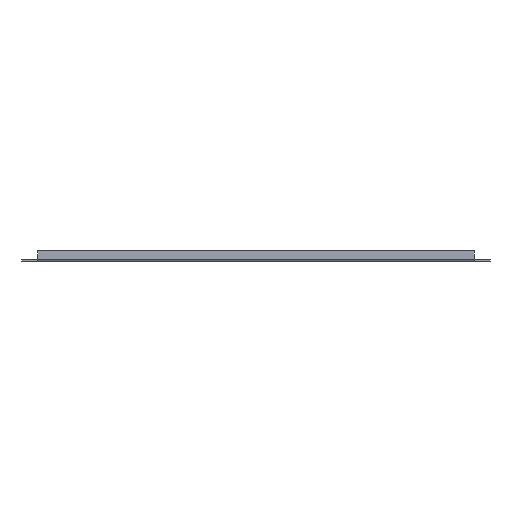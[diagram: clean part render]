
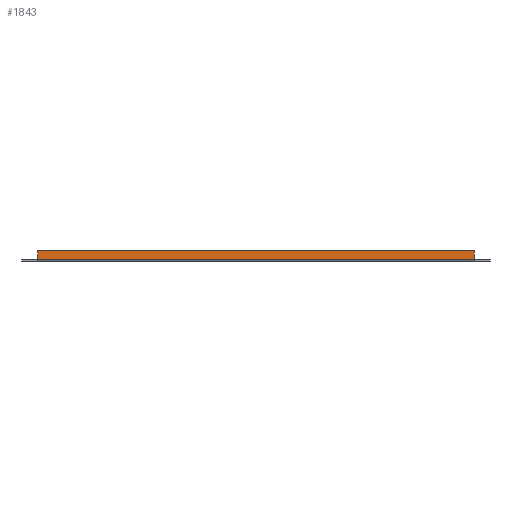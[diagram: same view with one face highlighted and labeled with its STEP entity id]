
A CAD part, left-side view. The second image highlights one B-rep face of the part: STEP entity #1843.
In plain terms, the highlighted planar face has unit normal (-1, 0, 0).
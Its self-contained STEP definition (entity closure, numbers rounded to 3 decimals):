
#1688 = VERTEX_POINT('',#1689);
#1689 = CARTESIAN_POINT('',(-825.,410.,3.1));
#1728 = VERTEX_POINT('',#1729);
#1729 = CARTESIAN_POINT('',(-825.,-410.,3.1));
#1753 = EDGE_CURVE('',#1728,#1688,#1754,.T.);
#1754 = LINE('',#1755,#1756);
#1755 = CARTESIAN_POINT('',(-825.,-410.,3.1));
#1756 = VECTOR('',#1757,1.);
#1757 = DIRECTION('',(0.,1.,0.));
#1795 = VERTEX_POINT('',#1796);
#1796 = CARTESIAN_POINT('',(-825.,-410.,20.));
#1802 = EDGE_CURVE('',#1728,#1795,#1803,.T.);
#1803 = LINE('',#1804,#1805);
#1804 = CARTESIAN_POINT('',(-825.,-410.,20.));
#1805 = VECTOR('',#1806,1.);
#1806 = DIRECTION('',(-0.,0.,1.));
#1817 = EDGE_CURVE('',#1818,#1688,#1820,.T.);
#1818 = VERTEX_POINT('',#1819);
#1819 = CARTESIAN_POINT('',(-825.,410.,20.));
#1820 = LINE('',#1821,#1822);
#1821 = CARTESIAN_POINT('',(-825.,410.,2.5));
#1822 = VECTOR('',#1823,1.);
#1823 = DIRECTION('',(0.,-0.,-1.));
#1843 = ADVANCED_FACE('',(#1844),#1855,.F.);
#1844 = FACE_BOUND('',#1845,.T.);
#1845 = EDGE_LOOP('',(#1846,#1847,#1848,#1854));
#1846 = ORIENTED_EDGE('',*,*,#1753,.F.);
#1847 = ORIENTED_EDGE('',*,*,#1802,.T.);
#1848 = ORIENTED_EDGE('',*,*,#1849,.T.);
#1849 = EDGE_CURVE('',#1795,#1818,#1850,.T.);
#1850 = LINE('',#1851,#1852);
#1851 = CARTESIAN_POINT('',(-825.,410.,20.));
#1852 = VECTOR('',#1853,1.);
#1853 = DIRECTION('',(0.,1.,-0.));
#1854 = ORIENTED_EDGE('',*,*,#1817,.T.);
#1855 = PLANE('',#1856);
#1856 = AXIS2_PLACEMENT_3D('',#1857,#1858,#1859);
#1857 = CARTESIAN_POINT('',(-825.,-410.,2.5));
#1858 = DIRECTION('',(1.,0.,0.));
#1859 = DIRECTION('',(0.,0.,-1.));
